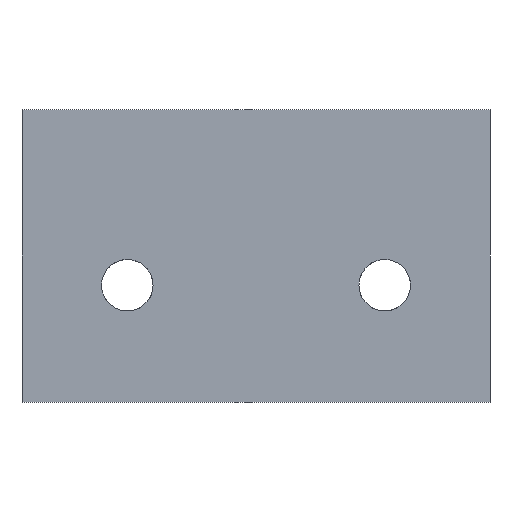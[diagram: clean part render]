
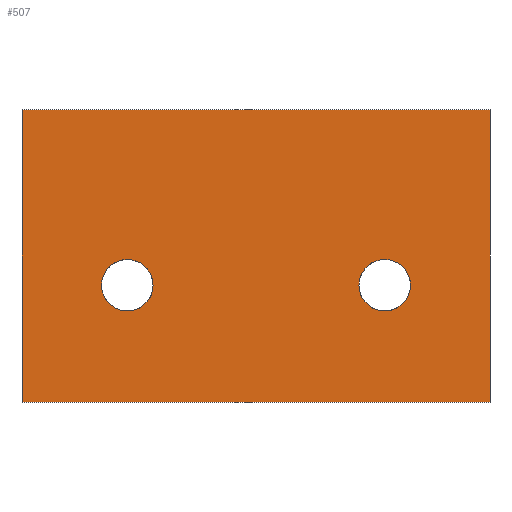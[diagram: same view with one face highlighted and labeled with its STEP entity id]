
A CAD part, left-side view. The second image highlights one B-rep face of the part: STEP entity #507.
In plain terms, the highlighted planar face has unit normal (-1, 0, 0).
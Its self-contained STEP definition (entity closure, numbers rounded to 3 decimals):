
#265=CARTESIAN_POINT('Vertex',(0.,200.,0.)) ;
#272=CARTESIAN_POINT('Vertex',(0.,0.,0.)) ;
#275=CARTESIAN_POINT('Line Origine',(0.,100.,0.)) ;
#292=CARTESIAN_POINT('Line Origine',(0.,200.,62.5)) ;
#296=CARTESIAN_POINT('Vertex',(0.,200.,125.)) ;
#316=CARTESIAN_POINT('Line Origine',(0.,100.,125.)) ;
#320=CARTESIAN_POINT('Vertex',(0.,0.,125.)) ;
#340=CARTESIAN_POINT('Line Origine',(0.,0.,62.5)) ;
#361=CARTESIAN_POINT('Vertex',(0.,155.,61.)) ;
#364=CARTESIAN_POINT('Axis2P3D Location',(0.,155.,50.)) ;
#368=CARTESIAN_POINT('Vertex',(0.,166.,50.)) ;
#371=CARTESIAN_POINT('Axis2P3D Location',(0.,155.,50.)) ;
#375=CARTESIAN_POINT('Vertex',(0.,155.,39.)) ;
#397=CARTESIAN_POINT('Axis2P3D Location',(0.,155.,50.)) ;
#401=CARTESIAN_POINT('Vertex',(0.,144.,50.)) ;
#404=CARTESIAN_POINT('Axis2P3D Location',(0.,155.,50.)) ;
#427=CARTESIAN_POINT('Vertex',(0.,45.,61.)) ;
#430=CARTESIAN_POINT('Axis2P3D Location',(0.,45.,50.)) ;
#434=CARTESIAN_POINT('Vertex',(0.,56.,50.)) ;
#437=CARTESIAN_POINT('Axis2P3D Location',(0.,45.,50.)) ;
#441=CARTESIAN_POINT('Vertex',(0.,45.,39.)) ;
#463=CARTESIAN_POINT('Axis2P3D Location',(0.,45.,50.)) ;
#467=CARTESIAN_POINT('Vertex',(0.,34.,50.)) ;
#470=CARTESIAN_POINT('Axis2P3D Location',(0.,45.,50.)) ;
#484=CARTESIAN_POINT('Axis2P3D Location',(0.,200.,125.)) ;
#276=DIRECTION('Vector Direction',(0.,-1.,0.)) ;
#293=DIRECTION('Vector Direction',(0.,0.,-1.)) ;
#317=DIRECTION('Vector Direction',(0.,-1.,0.)) ;
#341=DIRECTION('Vector Direction',(0.,0.,-1.)) ;
#365=DIRECTION('Axis2P3D Direction',(-1.,-0.,0.)) ;
#372=DIRECTION('Axis2P3D Direction',(-1.,-0.,0.)) ;
#398=DIRECTION('Axis2P3D Direction',(-1.,-0.,-0.)) ;
#405=DIRECTION('Axis2P3D Direction',(-1.,-0.,-0.)) ;
#431=DIRECTION('Axis2P3D Direction',(-1.,-0.,0.)) ;
#438=DIRECTION('Axis2P3D Direction',(-1.,-0.,0.)) ;
#464=DIRECTION('Axis2P3D Direction',(-1.,-0.,-0.)) ;
#471=DIRECTION('Axis2P3D Direction',(-1.,-0.,-0.)) ;
#485=DIRECTION('Axis2P3D Direction',(1.,0.,-0.)) ;
#486=DIRECTION('Axis2P3D XDirection',(-0.,0.,-1.)) ;
#366=AXIS2_PLACEMENT_3D('Circle Axis2P3D',#364,#365,$) ;
#373=AXIS2_PLACEMENT_3D('Circle Axis2P3D',#371,#372,$) ;
#399=AXIS2_PLACEMENT_3D('Circle Axis2P3D',#397,#398,$) ;
#406=AXIS2_PLACEMENT_3D('Circle Axis2P3D',#404,#405,$) ;
#432=AXIS2_PLACEMENT_3D('Circle Axis2P3D',#430,#431,$) ;
#439=AXIS2_PLACEMENT_3D('Circle Axis2P3D',#437,#438,$) ;
#465=AXIS2_PLACEMENT_3D('Circle Axis2P3D',#463,#464,$) ;
#472=AXIS2_PLACEMENT_3D('Circle Axis2P3D',#470,#471,$) ;
#487=AXIS2_PLACEMENT_3D('Plane Axis2P3D',#484,#485,#486) ;
#490=ORIENTED_EDGE('',*,*,#279,.T.) ;
#491=ORIENTED_EDGE('',*,*,#344,.F.) ;
#492=ORIENTED_EDGE('',*,*,#322,.F.) ;
#493=ORIENTED_EDGE('',*,*,#298,.T.) ;
#496=ORIENTED_EDGE('',*,*,#370,.T.) ;
#497=ORIENTED_EDGE('',*,*,#408,.T.) ;
#498=ORIENTED_EDGE('',*,*,#403,.T.) ;
#499=ORIENTED_EDGE('',*,*,#377,.T.) ;
#502=ORIENTED_EDGE('',*,*,#436,.T.) ;
#503=ORIENTED_EDGE('',*,*,#474,.T.) ;
#504=ORIENTED_EDGE('',*,*,#469,.T.) ;
#505=ORIENTED_EDGE('',*,*,#443,.T.) ;
#500=FACE_BOUND('',#495,.T.) ;
#506=FACE_BOUND('',#501,.T.) ;
#277=VECTOR('Line Direction',#276,1.) ;
#294=VECTOR('Line Direction',#293,1.) ;
#318=VECTOR('Line Direction',#317,1.) ;
#342=VECTOR('Line Direction',#341,1.) ;
#507=ADVANCED_FACE('A612-125-200',(#494,#500,#506),#488,.F.) ;
#367=CIRCLE('generated circle',#366,11.) ;
#374=CIRCLE('generated circle',#373,11.) ;
#400=CIRCLE('generated circle',#399,11.) ;
#407=CIRCLE('generated circle',#406,11.) ;
#433=CIRCLE('generated circle',#432,11.) ;
#440=CIRCLE('generated circle',#439,11.) ;
#466=CIRCLE('generated circle',#465,11.) ;
#473=CIRCLE('generated circle',#472,11.) ;
#279=EDGE_CURVE('',#266,#273,#278,.T.) ;
#298=EDGE_CURVE('',#297,#266,#295,.T.) ;
#322=EDGE_CURVE('',#297,#321,#319,.T.) ;
#344=EDGE_CURVE('',#321,#273,#343,.T.) ;
#370=EDGE_CURVE('',#369,#362,#367,.F.) ;
#377=EDGE_CURVE('',#376,#369,#374,.F.) ;
#403=EDGE_CURVE('',#402,#376,#400,.F.) ;
#408=EDGE_CURVE('',#362,#402,#407,.F.) ;
#436=EDGE_CURVE('',#435,#428,#433,.F.) ;
#443=EDGE_CURVE('',#442,#435,#440,.F.) ;
#469=EDGE_CURVE('',#468,#442,#466,.F.) ;
#474=EDGE_CURVE('',#428,#468,#473,.F.) ;
#489=EDGE_LOOP('',(#490,#491,#492,#493)) ;
#495=EDGE_LOOP('',(#496,#497,#498,#499)) ;
#501=EDGE_LOOP('',(#502,#503,#504,#505)) ;
#494=FACE_OUTER_BOUND('',#489,.T.) ;
#278=LINE('Line',#275,#277) ;
#295=LINE('Line',#292,#294) ;
#319=LINE('Line',#316,#318) ;
#343=LINE('Line',#340,#342) ;
#488=PLANE('Plane',#487) ;
#266=VERTEX_POINT('',#265) ;
#273=VERTEX_POINT('',#272) ;
#297=VERTEX_POINT('',#296) ;
#321=VERTEX_POINT('',#320) ;
#362=VERTEX_POINT('',#361) ;
#369=VERTEX_POINT('',#368) ;
#376=VERTEX_POINT('',#375) ;
#402=VERTEX_POINT('',#401) ;
#428=VERTEX_POINT('',#427) ;
#435=VERTEX_POINT('',#434) ;
#442=VERTEX_POINT('',#441) ;
#468=VERTEX_POINT('',#467) ;
